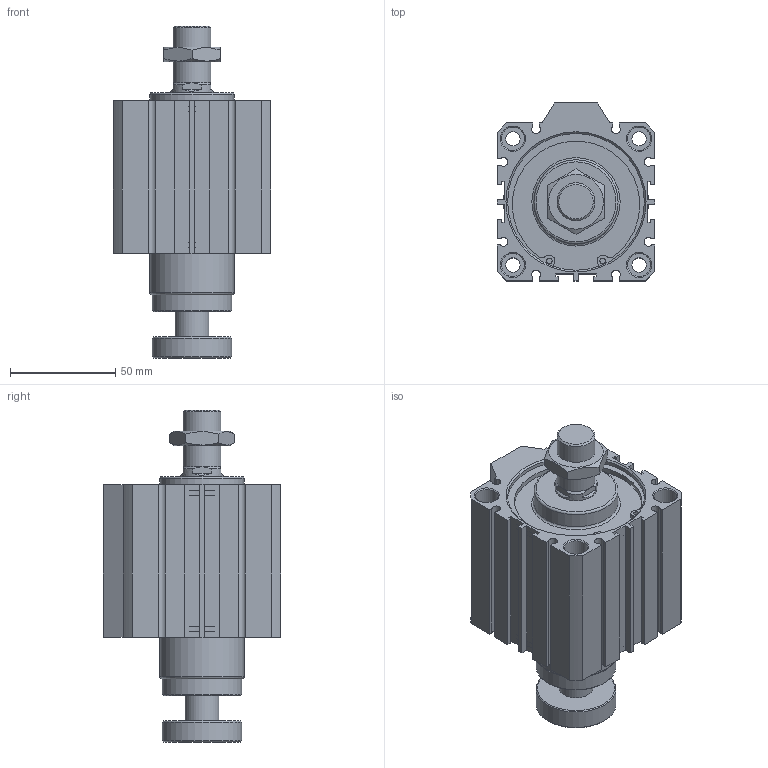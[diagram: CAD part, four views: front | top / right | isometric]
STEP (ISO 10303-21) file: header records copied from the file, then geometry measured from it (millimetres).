
FILE_DESCRIPTION((''),'2;1');
FILE_NAME('I:\3D電子目錄\氣缸\JDAR\JDAR-B\JDAR63-B\JDAR63x40-B.stp','2007-05-05T08:28:57',('662F206'),(''),'Autodesk Inventor 11','Autodesk Inventor 11','');
FILE_SCHEMA(('AUTOMOTIVE_DESIGN { 1 0 10303 214 1 1 1 1 }'));
Length unit declared in the file: millimetre
Products named in the file (3): JDAR63-B; R 形環 65
Assembly tree (3 placements, depth 2):
  JDAR63-B
    JDAR63-B
    R 形環 65  x2
Bounding box: 75 x 84.5 x 157.8 mm (x, y, z)
Volume: 428417.1 mm3; surface area: 69943.2 mm2
Topology: 3 solids, 3 shells, 201 faces, 487 edges, 317 vertices
Faces by surface type: plane 117, cylinder 56, cone 24, bspline 2, torus 2
Full cylindrical faces by diameter (mm): 2.7 x4, 3 x2, 6.8 x4, 11 x8, 16 x1, 18 x2, 20 x1, 38 x2, 40 x2, 65 x4, 68 x2
Entity records: 5349 total; most frequent: CARTESIAN_POINT 1011, DIRECTION 894, ORIENTED_EDGE 794, EDGE_CURVE 397, AXIS2_PLACEMENT_3D 324, VERTEX_POINT 291, EDGE_LOOP 280, VECTOR 246
